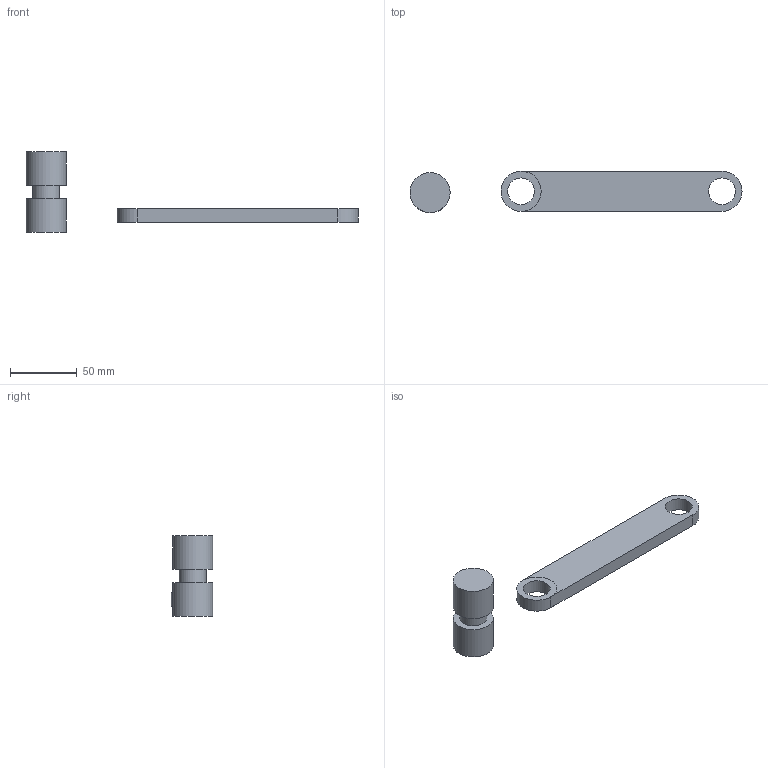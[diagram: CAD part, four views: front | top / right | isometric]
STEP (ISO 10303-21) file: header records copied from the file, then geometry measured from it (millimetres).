
FILE_DESCRIPTION(('FreeCAD Model'),'2;1');
FILE_NAME('Open CASCADE Shape Model','2025-12-14T13:17:09',(''),(''), 'Open CASCADE STEP processor 7.8','FreeCAD','Unknown');
FILE_SCHEMA(('AUTOMOTIVE_DESIGN { 1 0 10303 214 1 1 1 1 }'));
Length unit declared in the file: millimetre
Products named in the file (5): CompoundPendulum; Pendulum; Body; Pin; Body002
Assembly tree (4 placements, depth 3):
  CompoundPendulum
    Pendulum
      Body
    Pin
      Body002
Bounding box: 248 x 31 x 60 mm (x, y, z)
Volume: 84269.9 mm3; surface area: 21896 mm2
Topology: 2 solids, 2 shells, 17 faces, 31 edges, 20 vertices
Faces by surface type: plane 10, cylinder 7
Full cylindrical faces by diameter (mm): 20 x3, 30 x2
Entity records: 537 total; most frequent: DIRECTION 93, CARTESIAN_POINT 73, ORIENTED_EDGE 62, AXIS2_PLACEMENT_3D 40, EDGE_CURVE 31, FACE_BOUND 23, EDGE_LOOP 23, VERTEX_POINT 20
